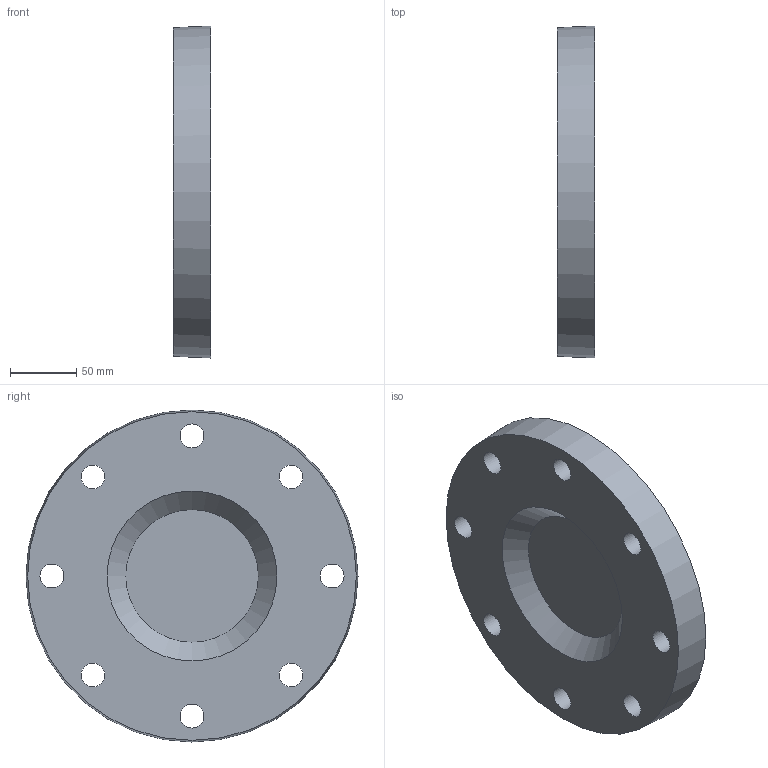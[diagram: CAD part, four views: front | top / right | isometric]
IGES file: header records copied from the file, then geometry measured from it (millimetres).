
Global section: file name: 059100140.ipt; native system: Autodesk Inventor 2015; preprocessor: unknown; author: KIM; date: 20171207.165933; units: millimetre
Bounding box: 28 x 250 x 250 mm (x, y, z)
Volume: 1159504.4 mm3; surface area: 130774.6 mm2
Topology: 1 solids, 1 shells, 25 faces, 50 edges, 34 vertices
Faces by surface type: revolution 12, plane 9, cylinder 3, cone 1
Full cylindrical faces by diameter (mm): 100 x1, 105 x1, 110 x1
